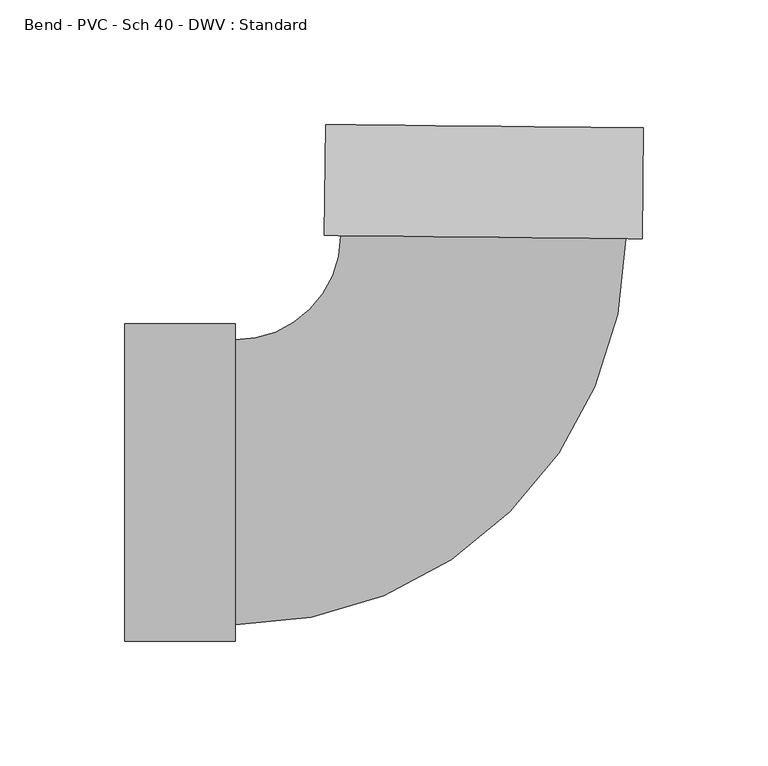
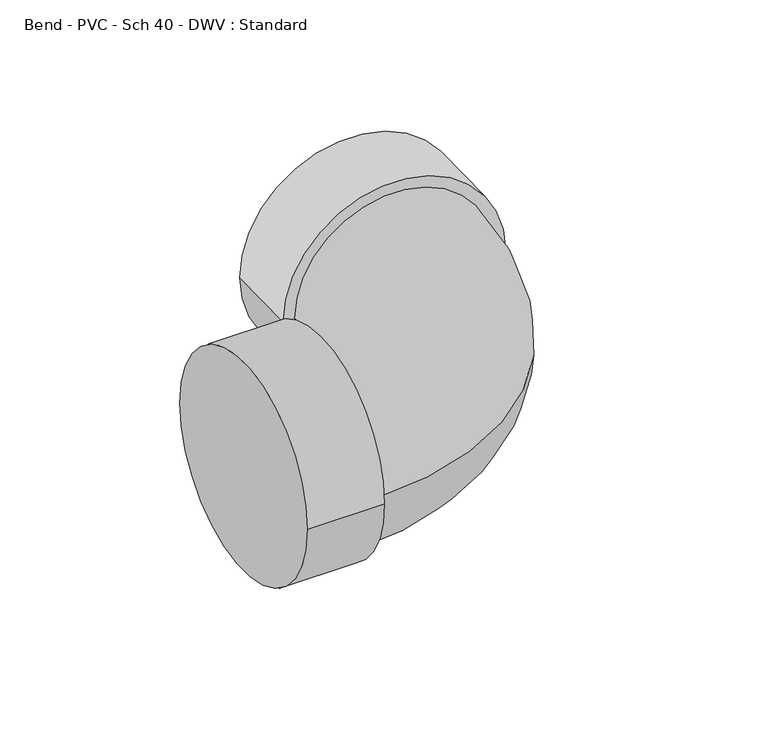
"""IFC4 building model written with IfcOpenShell, lengths in millimetres: pipe fitting geometry, Bend - PVC - Sch 40 - DWV : Standard."""

from ifc_helpers import new_model, si_unit, point, frame, origin, place, context, project, spatial, circle_curve, ellipse_curve, trimmed, source, transform, mapped, element, save
from ifc_brep_helpers import plane_surface, cylinder_surface, revolved_surface, advanced_brep


def bend_pvc_sch_40_dwv_standard_9f71c251(model_context):
    return source(origin(), model_context, "Body", "AdvancedBrep", [
        advanced_brep(
        [(-142.875, -63.754, 0.0), (-142.875, 63.754, 0.0), (-98.425, -63.754, 0.0), (-98.425, 63.754, 0.0), (-98.425, -57.15, 0.0), (-98.425, 57.15, 0.0), (-56.1172723, 99.0174473, 0.0), (58.1764738, 97.821782, 0.0), (64.7801124, 97.7526991, 0.0), (-62.7209109, 99.0865302, 0.0), (65.2450934, 142.200267, 0.0), (-62.25593, 143.5340981, 0.0)],
        [
            (0, 1, circle_curve(frame((-142.875, 0.0, 0.0), z_axis=(-1.0, 0.0, 0.0), x_axis=(0.0, 1.0, 0.0)), 63.754)),
            (1, 0, circle_curve(frame((-142.875, 0.0, 0.0), z_axis=(-1.0, 0.0, 0.0), x_axis=(0.0, 1.0, 0.0)), 63.754)),
            (2, 3, circle_curve(frame((-98.425, 0.0, 0.0), z_axis=(1.0, 0.0, 0.0), x_axis=(0.0, 1.0, 0.0)), 63.754)),
            (3, 2, circle_curve(frame((-98.425, 0.0, 0.0), z_axis=(1.0, 0.0, 0.0), x_axis=(0.0, 1.0, 0.0)), 63.754)),
            (4, 5, circle_curve(frame((-98.425, 0.0, 0.0), z_axis=(-1.0, 0.0, 0.0), x_axis=(0.0, 1.0, 0.0)), 57.15)),
            (5, 4, circle_curve(frame((-98.425, 0.0, 0.0), z_axis=(-1.0, 0.0, 0.0), x_axis=(0.0, 1.0, 0.0)), 57.15)),
            (0, 2),
            (3, 1),
            (6, 5, circle_curve(frame((-98.425, 99.4600427, 0.0), z_axis=(0.0, 0.0, -1.0), x_axis=(0.0, -1.0, 0.0)), 42.3100427)),
            (4, 7, circle_curve(frame((-98.425, 99.4600427, 0.0), z_axis=(0.0, 0.0, 1.0), x_axis=(0.0, -1.0, 0.0)), 156.6100427)),
            (7, 6, circle_curve(frame((1.0296007, 98.4196146, 0.0), z_axis=(-0.010460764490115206, -0.9999452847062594, 0.0), x_axis=(-0.9999452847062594, 0.010460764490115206, 0.0)), 57.15)),
            (6, 7, circle_curve(frame((1.0296007, 98.4196146, 0.0), z_axis=(-0.010460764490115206, -0.9999452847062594, 0.0), x_axis=(-0.9999452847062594, 0.010460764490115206, 0.0)), 57.15)),
            (8, 9, circle_curve(frame((1.0296007, 98.4196146, 0.0), z_axis=(-0.010460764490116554, -0.9999452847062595, 0.0), x_axis=(-0.9999452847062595, 0.010460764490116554, 0.0)), 63.754)),
            (9, 8, circle_curve(frame((1.0296007, 98.4196146, 0.0), z_axis=(-0.010460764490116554, -0.9999452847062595, 0.0), x_axis=(-0.9999452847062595, 0.010460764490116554, 0.0)), 63.754)),
            (10, 11, circle_curve(frame((1.4945817, 142.8671826, 0.0), z_axis=(0.010460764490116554, 0.9999452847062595, 0.0), x_axis=(-0.9999452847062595, 0.010460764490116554, 0.0)), 63.754)),
            (11, 10, circle_curve(frame((1.4945817, 142.8671826, 0.0), z_axis=(0.010460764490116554, 0.9999452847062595, 0.0), x_axis=(-0.9999452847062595, 0.010460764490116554, 0.0)), 63.754)),
            (8, 10),
            (11, 9),
        ],
        [
            plane_surface(frame((-142.875, 0.0, 0.0), z_axis=(-1.0, 0.0, 0.0), x_axis=(0.0, 0.0, 1.0))),
            plane_surface(frame((-98.425, 0.0, 0.0), z_axis=(1.0, 0.0, 0.0), x_axis=(0.0, 0.0, 1.0))),
            cylinder_surface(frame((-142.875, 0.0, 0.0), z_axis=(-1.0, 0.0, 0.0), x_axis=(0.0, 1.0, 0.0)), 63.754),
            revolved_surface(trimmed(ellipse_curve(frame((-98.425, 0.0, 0.0), z_axis=(-1.0, 0.0, 0.0), x_axis=(0.0, 1.0, 0.0)), 57.15, 57.15), [point((-98.425, -57.15, 0.0))], [point((-98.425, 57.15, 0.0))], True, "CARTESIAN"), (-98.425, 99.4600427, 0.0), (0.0, 0.0, 1.0)),
            revolved_surface(trimmed(ellipse_curve(frame((-98.425, 0.0, 0.0), z_axis=(-1.0, 0.0, 0.0), x_axis=(0.0, 1.0, 0.0)), 57.15, 57.15), [point((-98.425, 57.15, 0.0))], [point((-98.425, -57.15, 0.0))], True, "CARTESIAN"), (-98.425, 99.4600427, 0.0), (0.0, 0.0, 1.0)),
            plane_surface(frame((1.0296007, 98.4196146, 0.0), z_axis=(-0.010460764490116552, -0.9999452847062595, 0.0), x_axis=(0.0, 0.0, 1.0))),
            plane_surface(frame((1.4945817, 142.8671826, 0.0), z_axis=(0.010460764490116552, 0.9999452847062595, 0.0), x_axis=(0.0, 0.0, 1.0))),
            cylinder_surface(frame((1.0296007, 98.4196146, 0.0), z_axis=(-0.010460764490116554, -0.9999452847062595, 0.0), x_axis=(-0.9999452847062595, 0.010460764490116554, 0.0)), 63.754),
        ],
        [
            (0, [[1, 2]]),
            (1, [[3, 4], [5, 6]]),
            (2, [[-1, 7, -4, 8]]),
            (2, [[-2, -8, -3, -7]]),
            (3, [[9, -5, 10, 11]]),
            (4, [[-9, 12, -10, -6]]),
            (5, [[13, 14], [-11, -12]]),
            (6, [[15, 16]]),
            (7, [[-13, 17, -16, 18]]),
            (7, [[-14, -18, -15, -17]]),
        ],
    ),
    ])


if __name__ == "__main__":
    model = new_model("IFC4")
    model_context = context("Model", 3, world=origin())
    ifc_project = project(units=[si_unit("LENGTHUNIT", "METRE", prefix="MILLI")], contexts=[model_context])
    site = spatial("IfcSite", under=ifc_project)
    building = spatial("IfcBuilding", under=site)
    placement = place(None, origin())
    bend_pvc_sch_40_dwv_standard_shape = bend_pvc_sch_40_dwv_standard_9f71c251(model_context)
    element("IfcPipeFitting", 1, ObjectType="Bend - PVC - Sch 40 - DWV : Standard", at=placement, inside=building, context=model_context, shape_type="MappedRepresentation", body=[
        mapped(bend_pvc_sch_40_dwv_standard_shape, transform((0.0, 0.0, 0.0), x_axis=(1.0, 0.0, 0.0), y_axis=(0.0, 1.0, 0.0), z_axis=(0.0, 0.0, 1.0))),
    ])
    save(model, "model.ifc")
